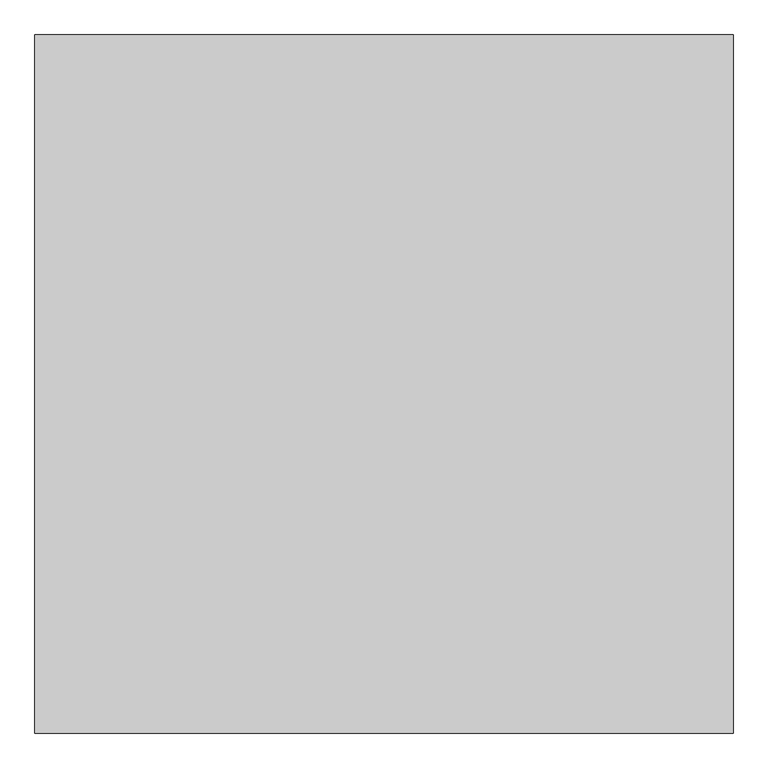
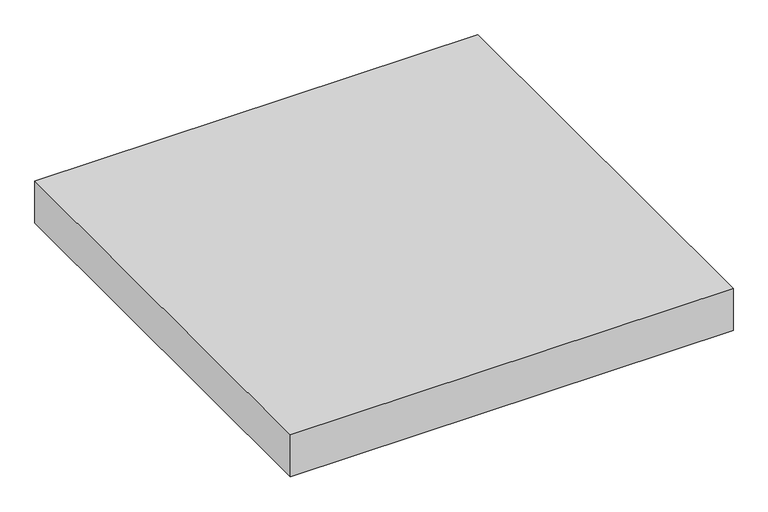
"""IFC4 building model written with IfcOpenShell, lengths in millimetres: proxy geometry, Modelos genéricos 16 : Modelos genéricos 1."""

from ifc_helpers import new_model, si_unit, origin, origin_with_axes, place, context, project, spatial, polyline, outline, extrude, source, transform, mapped, element, save


def generic_models_9dd790ae(model_context):
    return source(origin(), model_context, "Body", "SweptSolid", [
        extrude(outline(polyline([(-3422.6026359, 1454.287186), (-3422.6026359, -45.712814), (-4922.6026359, -45.712814), (-4922.6026359, 1454.287186), (-3422.6026359, 1454.287186)])), origin_with_axes(), (0.0, 0.0, 1.0), 150.0),
    ])


if __name__ == "__main__":
    model = new_model("IFC4")
    model_context = context("Model", 3, world=origin())
    ifc_project = project(units=[si_unit("LENGTHUNIT", "METRE", prefix="MILLI")], contexts=[model_context])
    site = spatial("IfcSite", under=ifc_project)
    building = spatial("IfcBuilding", under=site)
    placement = place(None, origin())
    generic_models_shape = generic_models_9dd790ae(model_context)
    element("IfcBuildingElementProxy", 1, Name="Modelos genéricos 16 : Modelos genéricos 1", ObjectType="Modelos genéricos 16 : Modelos genéricos 1", at=placement, inside=building, context=model_context, shape_type="MappedRepresentation", body=[
        mapped(generic_models_shape, transform((0.0, 0.0, 0.0), x_axis=(1.0, 0.0, 0.0), y_axis=(0.0, 1.0, 0.0), z_axis=(0.0, 0.0, 1.0))),
    ])
    save(model, "model.ifc")
